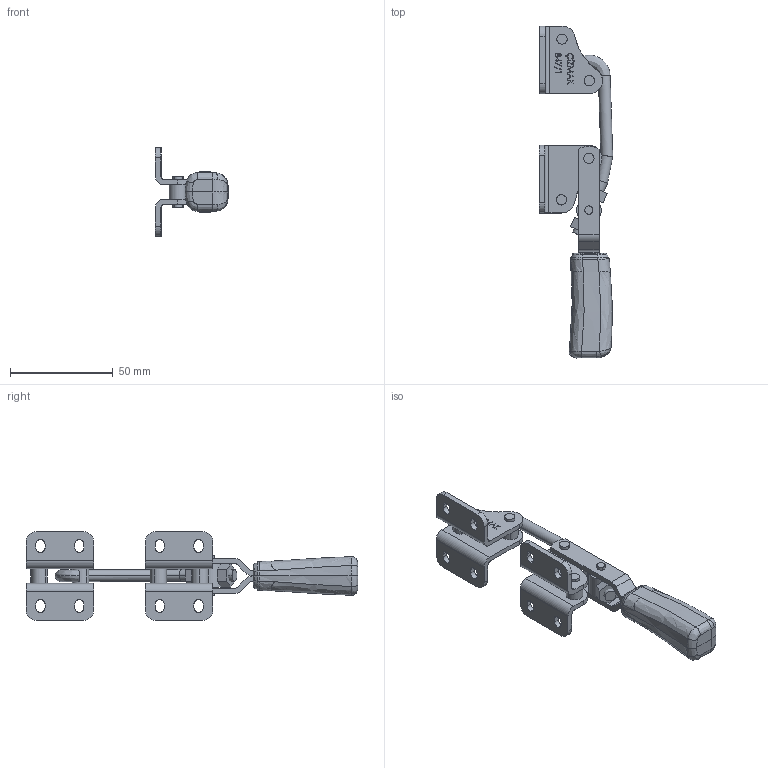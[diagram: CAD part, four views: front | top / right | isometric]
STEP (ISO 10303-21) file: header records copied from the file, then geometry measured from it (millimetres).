
FILE_DESCRIPTION (( 'STEP AP214' ), '1' );
FILE_NAME ('M46-1.STEP', '2018-02-09T09:21:46', ( '' ), ( '' ), 'SwSTEP 2.0', 'SolidWorks 2015', '' );
FILE_SCHEMA (( 'AUTOMOTIVE_DESIGN' ));
Length unit declared in the file: millimetre
Products named in the file (12): 847-1-5 kol; 847-1-7 halka; M46-1; 1; 847-1-4 ayak; 847-1-10 percin; 847-1-9 percin; 847-1-3 ayak; 847-1-4 ayak_2; 847-1-6; 847-1-1 kanca; 847-1-2
Assembly tree (18 placements, depth 2):
  M46-1
    847-1-7 halka  x4
    847-1-5 kol
    847-1-2
    847-1-1 kanca
    847-1-6  x2
    847-1-4 ayak_2
    847-1-3 ayak  x2
    847-1-9 percin  x3
    847-1-10 percin
    847-1-4 ayak
    1
Bounding box: 35.77 x 161.65 x 43.2 mm (x, y, z)
Volume: 36339.8 mm3; surface area: 24589.8 mm2
Topology: 18 solids, 18 shells, 592 faces, 1498 edges, 980 vertices
Faces by surface type: plane 313, bspline 156, cylinder 123
Entity records: 28639 total; most frequent: CARTESIAN_POINT 10826, ORIENTED_EDGE 2644, DIRECTION 1921, EDGE_CURVE 1322, VERTEX_POINT 864, VECTOR 841, LINE 841, EDGE_LOOP 590
